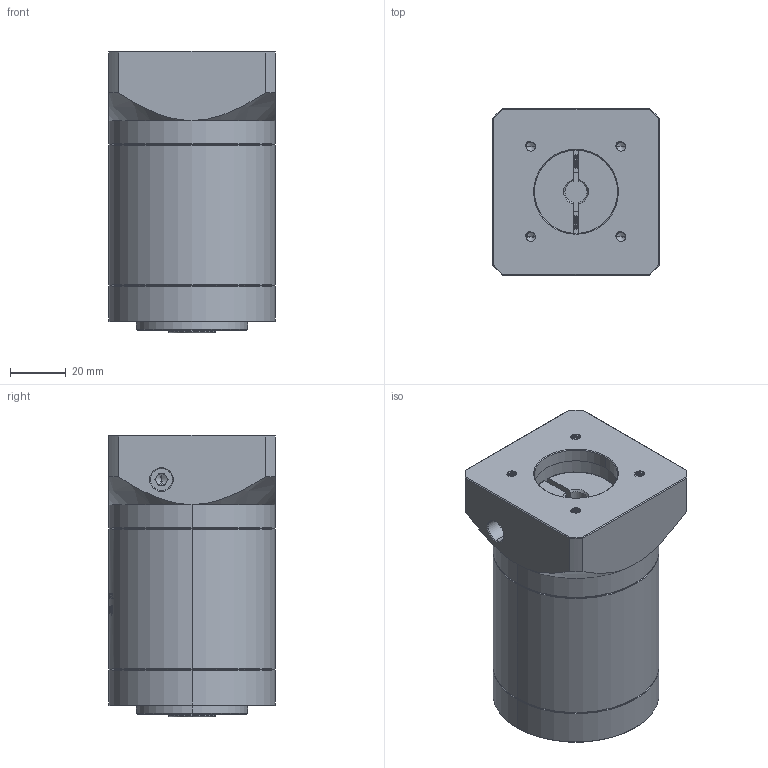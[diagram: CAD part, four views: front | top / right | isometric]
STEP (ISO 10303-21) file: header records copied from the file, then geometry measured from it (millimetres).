
FILE_DESCRIPTION (( 'STEP AP214' ), '1' );
FILE_NAME ('ZE60-K10-L2-8-30-46-M4.STEP', '2022-04-17T15:08:19', ( '' ), ( 'Microsoft' ), 'SwSTEP 2.0', 'SolidWorks 2016', '' );
FILE_SCHEMA (( 'AUTOMOTIVE_DESIGN' ));
Length unit declared in the file: millimetre
Products named in the file (1): ZE60-K10-L2-8-30-46-M4
Bounding box: 60 x 60 x 101.5 mm (x, y, z)
Volume: 263251.3 mm3; surface area: 45542.3 mm2
Topology: 6 solids, 6 shells, 1634 faces, 4454 edges, 2891 vertices
Faces by surface type: plane 725, cylinder 380, bspline 304, cone 207, torus 18
Entity records: 93449 total; most frequent: CARTESIAN_POINT 38273, ORIENTED_EDGE 8868, DIRECTION 6346, EDGE_CURVE 4434, VERTEX_POINT 2891, VECTOR 2234, LINE 2234, AXIS2_PLACEMENT_3D 2056
